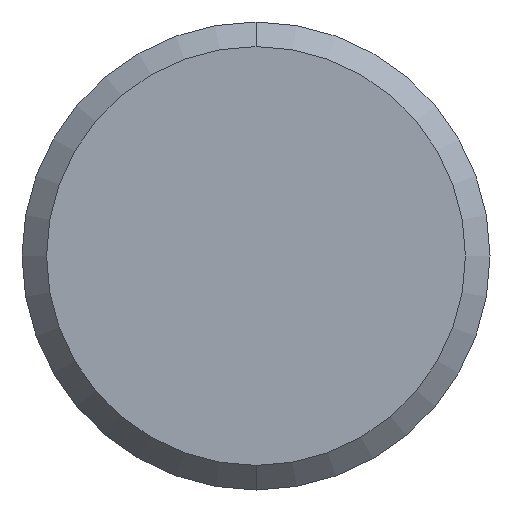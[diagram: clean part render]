
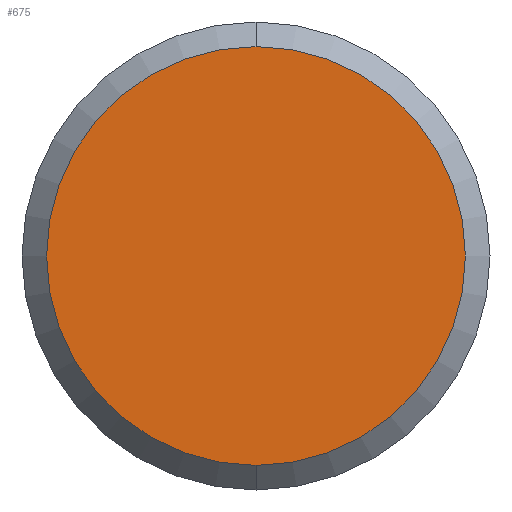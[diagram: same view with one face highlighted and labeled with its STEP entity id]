
A CAD part, front view. The second image highlights one B-rep face of the part: STEP entity #675.
In plain terms, the highlighted planar face has unit normal (0, -1, 0).
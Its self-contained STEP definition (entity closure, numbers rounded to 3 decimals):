
#305 = AXIS2_PLACEMENT_3D ( 'NONE', #1251, #1252, #1253 ) ;
#345 = AXIS2_PLACEMENT_3D ( 'NONE', #1692, #1713, #1712 ) ;
#391 = EDGE_CURVE ( 'NONE', #900, #1756, #965, .T. ) ;
#405 = AXIS2_PLACEMENT_3D ( 'NONE', #1370, #1371, #1372 ) ;
#437 = EDGE_CURVE ( 'NONE', #1756, #900, #989, .T. ) ;
#562 = CARTESIAN_POINT ( 'NONE',  ( 0., 0., 8.525 ) ) ;
#675 = ADVANCED_FACE ( 'NONE', ( #1322 ), #1367, .T. ) ;
#900 = VERTEX_POINT ( 'NONE', #1411 ) ;
#965 = CIRCLE ( 'NONE', #345, 8.525 ) ;
#989 = CIRCLE ( 'NONE', #305, 8.525 ) ;
#1251 = CARTESIAN_POINT ( 'NONE',  ( 0., 0., 0. ) ) ;
#1252 = DIRECTION ( 'NONE',  ( 0., -1., 0. ) ) ;
#1253 = DIRECTION ( 'NONE',  ( 0., 0., -1. ) ) ;
#1322 = FACE_OUTER_BOUND ( 'NONE', #1448, .T. ) ;
#1367 = PLANE ( 'NONE',  #405 ) ;
#1370 = CARTESIAN_POINT ( 'NONE',  ( -9.525, 0., 0. ) ) ;
#1371 = DIRECTION ( 'NONE',  ( 0., -1., 0. ) ) ;
#1372 = DIRECTION ( 'NONE',  ( 0., 0., -1. ) ) ;
#1411 = CARTESIAN_POINT ( 'NONE',  ( 0., 0., -8.525 ) ) ;
#1448 = EDGE_LOOP ( 'NONE', ( #1644, #1645 ) ) ;
#1644 = ORIENTED_EDGE ( 'NONE', *, *, #437, .T. ) ;
#1645 = ORIENTED_EDGE ( 'NONE', *, *, #391, .T. ) ;
#1692 = CARTESIAN_POINT ( 'NONE',  ( 0., 0., 0. ) ) ;
#1712 = DIRECTION ( 'NONE',  ( 0., 0., -1. ) ) ;
#1713 = DIRECTION ( 'NONE',  ( 0., -1., 0. ) ) ;
#1756 = VERTEX_POINT ( 'NONE', #562 ) ;
